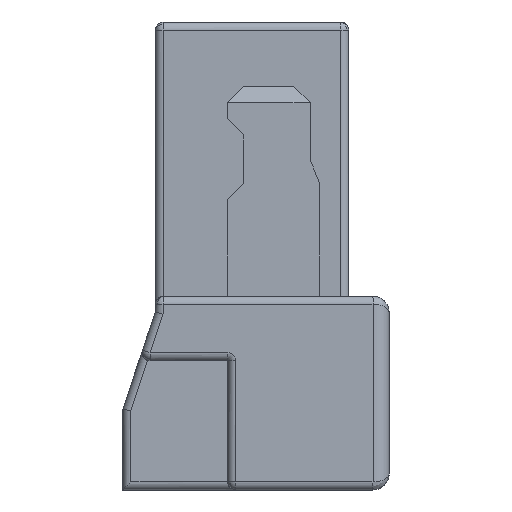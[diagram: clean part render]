
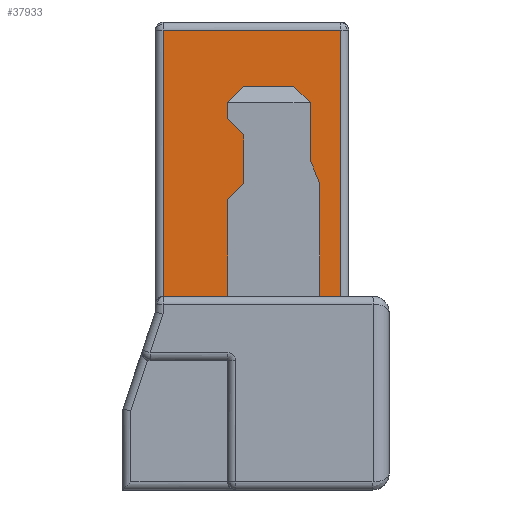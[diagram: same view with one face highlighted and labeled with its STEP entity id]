
A CAD part, left-side view. The second image highlights one B-rep face of the part: STEP entity #37933.
In plain terms, the highlighted planar face has unit normal (-1, 0, 0).
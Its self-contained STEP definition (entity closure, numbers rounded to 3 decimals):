
#8983=DIRECTION('',(0.,-1.,0.));
#8984=VECTOR('',#8983,1.1);
#8985=CARTESIAN_POINT('',(-16.09,1.4,2.85));
#8986=LINE('',#8985,#8984);
#8991=DIRECTION('',(0.,0.,-1.));
#8992=VECTOR('',#8991,0.354);
#8993=CARTESIAN_POINT('',(-16.09,0.49,2.4));
#8994=LINE('',#8993,#8992);
#8995=DIRECTION('',(0.,-0.707,-0.707));
#8996=VECTOR('',#8995,0.141);
#8997=CARTESIAN_POINT('',(-16.09,0.59,2.5));
#8998=LINE('',#8997,#8996);
#8999=DIRECTION('',(0.,-0.707,0.707));
#9000=VECTOR('',#8999,0.141);
#9001=CARTESIAN_POINT('',(-16.09,1.,2.4));
#9002=LINE('',#9001,#9000);
#9003=DIRECTION('',(0.,0.707,0.707));
#9004=VECTOR('',#9003,0.141);
#9005=CARTESIAN_POINT('',(-16.09,0.9,2.2));
#9006=LINE('',#9005,#9004);
#9007=DIRECTION('',(0.,-0.707,0.707));
#9008=VECTOR('',#9007,0.141);
#9009=CARTESIAN_POINT('',(-16.09,1.,1.8));
#9010=LINE('',#9009,#9008);
#9011=DIRECTION('',(0.,-1.,0.));
#9012=VECTOR('',#9011,0.4);
#9013=CARTESIAN_POINT('',(-16.09,1.4,1.2));
#9014=LINE('',#9013,#9012);
#9015=DIRECTION('',(0.,-1.,0.));
#9016=VECTOR('',#9015,0.13);
#9017=CARTESIAN_POINT('',(-16.09,0.43,1.2));
#9018=LINE('',#9017,#9016);
#9019=DIRECTION('',(0.,-0.38,-0.925));
#9020=VECTOR('',#9019,0.158);
#9021=CARTESIAN_POINT('',(-16.09,0.49,2.046));
#9022=LINE('',#9021,#9020);
#9039=DIRECTION('',(0.,0.,1.));
#9040=VECTOR('',#9039,0.7);
#9041=CARTESIAN_POINT('',(-16.09,0.43,1.2));
#9042=LINE('',#9041,#9040);
#9079=DIRECTION('',(0.,0.,-1.));
#9080=VECTOR('',#9079,0.6);
#9081=CARTESIAN_POINT('',(-16.09,1.,1.8));
#9082=LINE('',#9081,#9080);
#9095=DIRECTION('',(0.,0.,-1.));
#9096=VECTOR('',#9095,0.3);
#9097=CARTESIAN_POINT('',(-16.09,0.9,2.2));
#9098=LINE('',#9097,#9096);
#9111=DIRECTION('',(0.,0.,-1.));
#9112=VECTOR('',#9111,0.1);
#9113=CARTESIAN_POINT('',(-16.09,1.,2.4));
#9114=LINE('',#9113,#9112);
#9127=DIRECTION('',(0.,1.,0.));
#9128=VECTOR('',#9127,0.31);
#9129=CARTESIAN_POINT('',(-16.09,0.59,2.5));
#9130=LINE('',#9129,#9128);
#9147=DIRECTION('',(0.,0.,1.));
#9148=VECTOR('',#9147,1.65);
#9149=CARTESIAN_POINT('',(-16.09,1.4,1.2));
#9150=LINE('',#9149,#9148);
#9536=DIRECTION('',(0.,0.,-1.));
#9537=VECTOR('',#9536,1.65);
#9538=CARTESIAN_POINT('',(-16.09,0.3,2.85));
#9539=LINE('',#9538,#9537);
#20074=CARTESIAN_POINT('',(-16.09,1.,1.2));
#20076=VERTEX_POINT('',#20074);
#20078=CARTESIAN_POINT('',(-16.09,1.,1.8));
#20079=VERTEX_POINT('',#20078);
#20854=CARTESIAN_POINT('',(-16.09,0.49,2.4));
#20855=VERTEX_POINT('',#20854);
#20856=CARTESIAN_POINT('',(-16.09,0.49,2.046));
#20857=VERTEX_POINT('',#20856);
#20860=CARTESIAN_POINT('',(-16.09,0.59,2.5));
#20861=VERTEX_POINT('',#20860);
#20864=CARTESIAN_POINT('',(-16.09,0.43,1.9));
#20865=VERTEX_POINT('',#20864);
#22285=CARTESIAN_POINT('',(-16.09,1.,2.3));
#22286=VERTEX_POINT('',#22285);
#22287=CARTESIAN_POINT('',(-16.09,1.,2.4));
#22288=VERTEX_POINT('',#22287);
#22324=CARTESIAN_POINT('',(-16.09,1.4,2.85));
#22326=VERTEX_POINT('',#22324);
#22327=CARTESIAN_POINT('',(-16.09,1.4,1.2));
#22328=VERTEX_POINT('',#22327);
#22344=CARTESIAN_POINT('',(-16.09,0.9,2.5));
#22345=VERTEX_POINT('',#22344);
#22346=CARTESIAN_POINT('',(-16.09,0.9,2.2));
#22347=VERTEX_POINT('',#22346);
#22348=CARTESIAN_POINT('',(-16.09,0.9,1.9));
#22349=VERTEX_POINT('',#22348);
#22350=CARTESIAN_POINT('',(-16.09,0.3,2.85));
#22351=VERTEX_POINT('',#22350);
#22352=CARTESIAN_POINT('',(-16.09,0.3,1.2));
#22353=VERTEX_POINT('',#22352);
#22354=CARTESIAN_POINT('',(-16.09,0.43,1.2));
#22355=VERTEX_POINT('',#22354);
#37897=CARTESIAN_POINT('',(-16.09,0.715,1.8));
#37898=DIRECTION('',(1.,0.,0.));
#37899=DIRECTION('',(0.,1.,0.));
#37900=AXIS2_PLACEMENT_3D('',#37897,#37898,#37899);
#37901=PLANE('',#37900);
#37903=ORIENTED_EDGE('',*,*,#37902,.F.);
#37905=ORIENTED_EDGE('',*,*,#37904,.F.);
#37907=ORIENTED_EDGE('',*,*,#37906,.T.);
#37909=ORIENTED_EDGE('',*,*,#37908,.F.);
#37911=ORIENTED_EDGE('',*,*,#37910,.T.);
#37913=ORIENTED_EDGE('',*,*,#37912,.F.);
#37915=ORIENTED_EDGE('',*,*,#37914,.T.);
#37917=ORIENTED_EDGE('',*,*,#37916,.F.);
#37919=ORIENTED_EDGE('',*,*,#37918,.T.);
#37920=ORIENTED_EDGE('',*,*,#28852,.F.);
#37922=ORIENTED_EDGE('',*,*,#37921,.T.);
#37923=ORIENTED_EDGE('',*,*,#37886,.T.);
#37925=ORIENTED_EDGE('',*,*,#37924,.T.);
#37926=ORIENTED_EDGE('',*,*,#28860,.F.);
#37928=ORIENTED_EDGE('',*,*,#37927,.T.);
#37930=ORIENTED_EDGE('',*,*,#37929,.F.);
#37931=EDGE_LOOP('',(#37903,#37905,#37907,#37909,#37911,#37913,#37915,#37917,
#37919,#37920,#37922,#37923,#37925,#37926,#37928,#37930));
#37932=FACE_OUTER_BOUND('',#37931,.F.);
#37933=ADVANCED_FACE('',(#37932),#37901,.F.);
#28852=EDGE_CURVE('',#22328,#20076,#9014,.T.);
#28860=EDGE_CURVE('',#22355,#22353,#9018,.T.);
#37886=EDGE_CURVE('',#22326,#22351,#8986,.T.);
#37902=EDGE_CURVE('',#20855,#20857,#8994,.T.);
#37904=EDGE_CURVE('',#20861,#20855,#8998,.T.);
#37906=EDGE_CURVE('',#20861,#22345,#9130,.T.);
#37908=EDGE_CURVE('',#22288,#22345,#9002,.T.);
#37910=EDGE_CURVE('',#22288,#22286,#9114,.T.);
#37912=EDGE_CURVE('',#22347,#22286,#9006,.T.);
#37914=EDGE_CURVE('',#22347,#22349,#9098,.T.);
#37916=EDGE_CURVE('',#20079,#22349,#9010,.T.);
#37918=EDGE_CURVE('',#20079,#20076,#9082,.T.);
#37921=EDGE_CURVE('',#22328,#22326,#9150,.T.);
#37924=EDGE_CURVE('',#22351,#22353,#9539,.T.);
#37927=EDGE_CURVE('',#22355,#20865,#9042,.T.);
#37929=EDGE_CURVE('',#20857,#20865,#9022,.T.);
